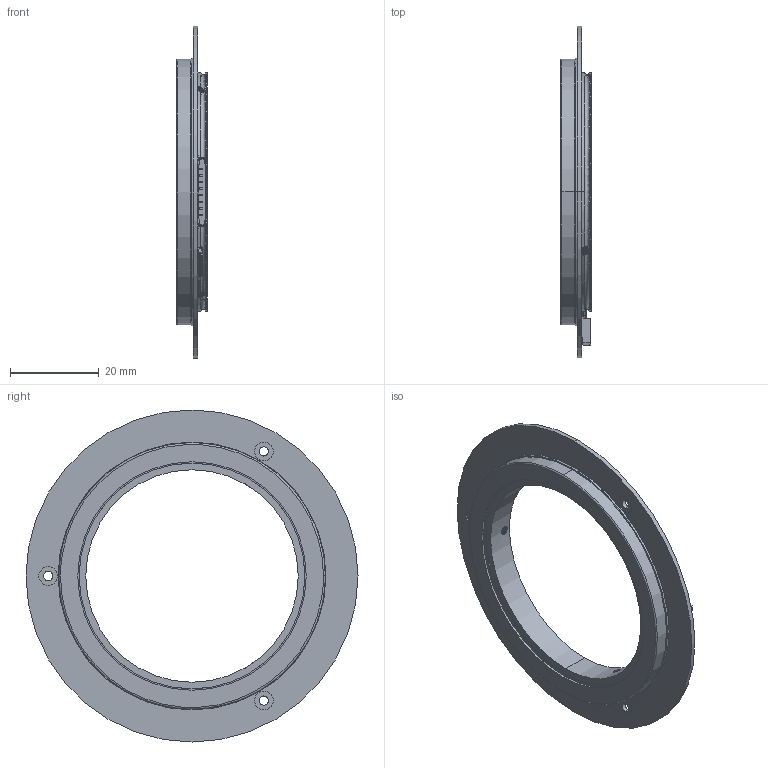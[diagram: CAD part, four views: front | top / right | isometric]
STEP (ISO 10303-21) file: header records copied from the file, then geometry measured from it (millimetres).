
FILE_DESCRIPTION (( 'STEP AP214' ), '1' );
FILE_NAME ('MBS-48-75¸üÐÂ.STEP', '2024-07-17T06:39:56', ( 'C' ), ( 'Microsoft' ), 'SwSTEP 2.0', 'SolidWorks 2016', '' );
FILE_SCHEMA (( 'AUTOMOTIVE_DESIGN' ));
Length unit declared in the file: millimetre
Products named in the file (8): PRT0008; PRT0007; MBS-48-75載陔; ASM0004_ASM; PRT0010; ____-____1-72052; PRT0009; ____-____1-37100
Assembly tree (7 placements, depth 3):
  MBS-48-75載陔
    ASM0004_ASM
      PRT0007
      PRT0008
      ____-____1-37100
      PRT0009
      ____-____1-72052
      PRT0010
Bounding box: 7 x 75 x 75 mm (x, y, z)
Volume: 5652.6 mm3; surface area: 12357.7 mm2
Topology: 6 solids, 6 shells, 865 faces, 2415 edges, 1571 vertices
Faces by surface type: plane 573, cylinder 182, bspline 96, cone 12, torus 2
Entity records: 41467 total; most frequent: CARTESIAN_POINT 18952, ORIENTED_EDGE 4798, DIRECTION 3948, EDGE_CURVE 2399, VECTOR 1766, LINE 1766, VERTEX_POINT 1571, AXIS2_PLACEMENT_3D 1091
